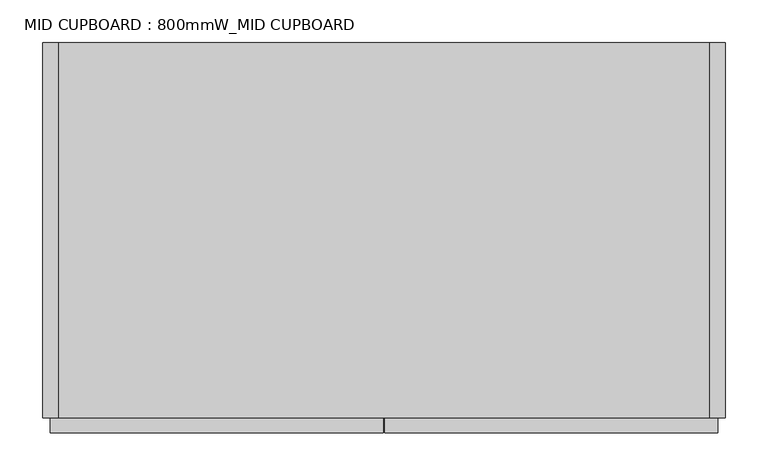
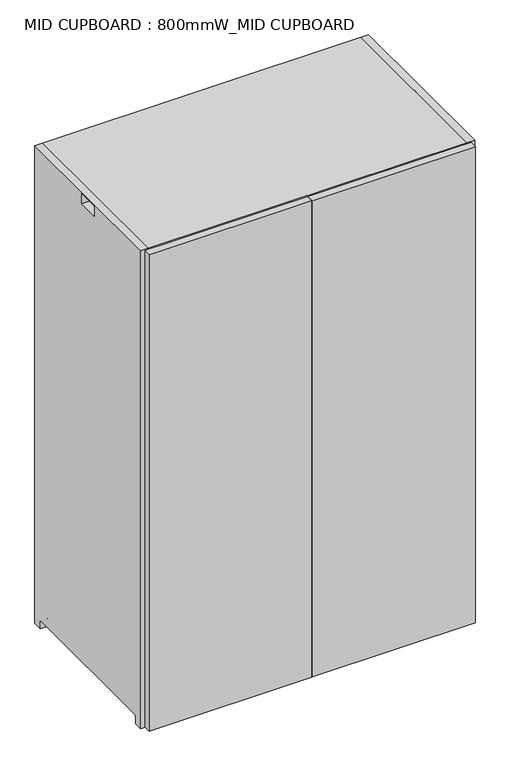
"""IFC4 building model written with IfcOpenShell, lengths in millimetres: furniture geometry, MID CUPBOARD : 800mmW_MID CUPBOARD."""

from ifc_helpers import new_model, si_unit, point, frame, frame_2d, origin, place, context, project, spatial, polyline, circle_curve, trimmed, segment, composite_curve, outline, extrude, source, transform, mapped, element, save
from ifc_brep_helpers import plane_surface, revolved_surface, advanced_brep


def mid_cupboard_800mmw_mid_cupboard_a6dcce3a(model_context):
    return source(origin(), model_context, "Body", "SolidModel", [
        extrude(outline(composite_curve([segment(polyline([(-220.0, 1210.0), (220.0, 1210.0), (220.0, 0.0), (198.0, 0.0), (198.0, 17.0)]), True, "CONTINUOUS"), segment(trimmed(circle_curve(frame_2d((194.0, 17.0)), 4.0), [point((198.0, 17.0))], [point((194.0, 21.0))], True, "CARTESIAN"), True, "CONTINUOUS"), segment(polyline([(194.0, 21.0), (-194.0, 21.0)]), True, "CONTINUOUS"), segment(trimmed(circle_curve(frame_2d((-194.0, 17.0)), 4.0), [point((-194.0, 21.0))], [point((-198.0, 17.0))], True, "CARTESIAN"), True, "CONTINUOUS"), segment(polyline([(-198.0, 17.0), (-198.0, 0.0), (-220.0, 0.0), (-220.0, 1210.0)]), True, "CONTINUOUS")], self_intersect=False), holes=[polyline([(-26.0, 1205.0), (-26.0, 1180.0), (26.0, 1180.0), (26.0, 1205.0), (-26.0, 1205.0)])]), frame((-400.0, 0.0, 0.0), z_axis=(1.0, 0.0, 0.0), x_axis=(0.0, 1.0, 0.0)), (0.0, 0.0, 1.0), 18.0),
        advanced_brep(
        [(382.0, 220.0, 18.0), (-382.0, 220.0, 18.0), (-382.0, 197.8729833, 18.0), (-376.1019215, 197.8729833, 18.0), (-376.1019215, -197.8729833, 18.0), (-382.0, -197.8729833, 18.0), (-382.0, -220.0, 18.0), (382.0, -220.0, 18.0), (382.0, 220.0, 0.0), (382.0, -220.0, 0.0), (-382.0, -220.0, 0.0), (-382.0, -198.0, 0.0), (-376.1019215, -198.0, 0.0), (-376.1019215, 198.0, 0.0), (-382.0, 198.0, 0.0), (-382.0, 220.0, 0.0), (-382.0, 198.0, 17.0), (-382.0, -198.0, 17.0), (-376.1019215, 198.0, 17.0), (-376.1019215, -198.0, 17.0)],
        [
            (0, 1),
            (1, 2),
            (2, 3),
            (3, 4),
            (4, 5),
            (5, 6),
            (6, 7),
            (7, 0),
            (8, 9),
            (9, 10),
            (10, 11),
            (11, 12),
            (12, 13),
            (13, 14),
            (14, 15),
            (15, 8),
            (0, 8),
            (15, 1),
            (14, 16),
            (16, 2, circle_curve(frame((-382.0, 194.0, 17.0), z_axis=(1.0, 0.0, 0.0), x_axis=(0.0, 1.0, 0.0)), 4.0)),
            (10, 6),
            (5, 17, circle_curve(frame((-382.0, -194.0, 17.0), z_axis=(1.0, 0.0, 0.0), x_axis=(0.0, 1.0, 0.0)), 4.0)),
            (17, 11),
            (9, 7),
            (18, 13),
            (12, 19),
            (19, 4, circle_curve(frame((-376.1019215, -194.0, 17.0), z_axis=(-1.0, 0.0, 0.0), x_axis=(0.0, 1.0, 0.0)), 4.0)),
            (3, 18, circle_curve(frame((-376.1019215, 194.0, 17.0), z_axis=(-1.0, 0.0, 0.0), x_axis=(0.0, 1.0, 0.0)), 4.0)),
            (19, 17),
            (18, 16),
        ],
        [
            plane_surface(frame((-382.0, 220.0, 18.0), z_axis=(0.0, 0.0, 1.0), x_axis=(-1.0, 0.0, 0.0))),
            plane_surface(frame((-382.0, 220.0, 0.0), z_axis=(0.0, 0.0, -1.0), x_axis=(1.0, 0.0, 0.0))),
            plane_surface(frame((382.0, 220.0, 18.0), z_axis=(0.0, 1.0, 0.0), x_axis=(0.0, 0.0, -1.0))),
            plane_surface(frame((-382.0, 220.0, 18.0), z_axis=(-1.0, 0.0, 0.0), x_axis=(0.0, 0.0, -1.0))),
            plane_surface(frame((-382.0, -220.0, 18.0), z_axis=(0.0, -1.0, 0.0), x_axis=(0.0, 0.0, -1.0))),
            plane_surface(frame((382.0, -220.0, 18.0), z_axis=(1.0, 0.0, 0.0), x_axis=(0.0, 0.0, -1.0))),
            plane_surface(frame((-376.1019215, -190.0, 17.0), z_axis=(-1.0, 0.0, 0.0), x_axis=(0.0, 0.0, 1.0))),
            revolved_surface(polyline([(-376.1019215, -190.0, 17.0), (-382.0, -190.0, 17.0)]), (-406.0458228, -194.0, 17.0), (1.0, 0.0, 0.0)),
            plane_surface(frame((-376.1019215, -198.0, 17.0), z_axis=(0.0, 1.0, 0.0), x_axis=(-1.0, 0.0, 0.0))),
            plane_surface(frame((-376.1019215, 198.0, 0.0), z_axis=(0.0, -1.0, 0.0), x_axis=(-1.0, 0.0, 0.0))),
            revolved_surface(polyline([(-376.1019215, 198.0, 17.0), (-382.0, 198.0, 17.0)]), (-406.0458228, 194.0, 17.0), (1.0, 0.0, 0.0)),
        ],
        [
            (0, [[1, 2, 3, 4, 5, 6, 7, 8]]),
            (1, [[9, 10, 11, 12, 13, 14, 15, 16]]),
            (2, [[-1, 17, -16, 18]]),
            (3, [[-18, -15, 19, 20, -2]]),
            (3, [[21, -6, 22, 23, -11]]),
            (4, [[-7, -21, -10, 24]]),
            (5, [[-8, -24, -9, -17]]),
            (6, [[25, -13, 26, 27, -4, 28]]),
            (7, [[-27, 29, -22, -5]]),
            (8, [[-26, -12, -23, -29]]),
            (9, [[-25, 30, -19, -14]]),
            (10, [[-28, -3, -20, -30]]),
        ],
    ),
        extrude(outline(composite_curve([segment(polyline([(-220.0, 1210.0), (220.0, 1210.0), (220.0, 0.0), (198.0, 0.0), (198.0, 17.0)]), True, "CONTINUOUS"), segment(trimmed(circle_curve(frame_2d((194.0, 17.0)), 4.0), [point((198.0, 17.0))], [point((194.0, 21.0))], True, "CARTESIAN"), True, "CONTINUOUS"), segment(polyline([(194.0, 21.0), (-194.0, 21.0)]), True, "CONTINUOUS"), segment(trimmed(circle_curve(frame_2d((-194.0, 17.0)), 4.0), [point((-194.0, 21.0))], [point((-198.0, 17.0))], True, "CARTESIAN"), True, "CONTINUOUS"), segment(polyline([(-198.0, 17.0), (-198.0, 0.0), (-220.0, 0.0), (-220.0, 1210.0)]), True, "CONTINUOUS")], self_intersect=False), holes=[polyline([(-26.0, 1205.0), (-26.0, 1180.0), (26.0, 1180.0), (26.0, 1205.0), (-26.0, 1205.0)])]), frame((382.0, 0.0, 0.0), z_axis=(1.0, 0.0, 0.0), x_axis=(0.0, 1.0, 0.0)), (0.0, 0.0, 1.0), 18.0),
        extrude(outline(polyline([(382.0, 220.0), (382.0, 202.0), (-382.0, 202.0), (-382.0, 220.0), (382.0, 220.0)])), frame((0.0, 0.0, 18.0), z_axis=(0.0, 0.0, 1.0), x_axis=(1.0, 0.0, 0.0)), (0.0, 0.0, 1.0), 1174.0),
        extrude(outline(polyline([(382.0, 202.0), (382.0, -220.0), (-382.0, -220.0), (-382.0, 202.0), (382.0, 202.0)])), frame((0.0, 0.0, 398.5), z_axis=(0.0, 0.0, 1.0), x_axis=(1.0, 0.0, 0.0)), (0.0, 0.0, 1.0), 18.0),
        extrude(outline(polyline([(382.0, 202.0), (382.0, -220.0), (-382.0, -220.0), (-382.0, 202.0), (382.0, 202.0)])), frame((0.0, 0.0, 793.5), z_axis=(0.0, 0.0, 1.0), x_axis=(1.0, 0.0, 0.0)), (0.0, 0.0, 1.0), 18.0),
        extrude(outline(polyline([(382.0, 220.0), (382.0, -220.0), (-382.0, -220.0), (-382.0, 220.0), (382.0, 220.0)])), frame((0.0, 0.0, 1192.0), z_axis=(0.0, 0.0, 1.0), x_axis=(1.0, 0.0, 0.0)), (0.0, 0.0, 1.0), 18.0),
        extrude(outline(polyline([(9.0, 202.0), (9.0, -220.0), (-9.0, -220.0), (-9.0, 202.0), (9.0, 202.0)])), frame((0.0, 0.0, 18.0), z_axis=(0.0, 0.0, 1.0), x_axis=(1.0, 0.0, 0.0)), (0.0, 0.0, 1.0), 1174.0),
        extrude(outline(polyline([(391.0, -220.0), (391.0, -238.0), (1.0, -238.0), (1.0, -220.0), (391.0, -220.0)])), frame((0.0, 0.0, 2.0), z_axis=(0.0, 0.0, 1.0), x_axis=(1.0, 0.0, 0.0)), (0.0, 0.0, 1.0), 1206.0),
        extrude(outline(polyline([(-391.0, -220.0), (-1.0, -220.0), (-1.0, -238.0), (-391.0, -238.0), (-391.0, -220.0)])), frame((0.0, 0.0, 2.0), z_axis=(0.0, 0.0, 1.0), x_axis=(1.0, 0.0, 0.0)), (0.0, 0.0, 1.0), 1206.0),
    ])


if __name__ == "__main__":
    model = new_model("IFC4")
    model_context = context("Model", 3, world=origin())
    ifc_project = project(units=[si_unit("LENGTHUNIT", "METRE", prefix="MILLI")], contexts=[model_context])
    site = spatial("IfcSite", under=ifc_project)
    building = spatial("IfcBuilding", under=site)
    placement = place(None, origin())
    mid_cupboard_800mmw_mid_cupboard_shape = mid_cupboard_800mmw_mid_cupboard_a6dcce3a(model_context)
    element("IfcFurniture", 1, ObjectType="MID CUPBOARD : 800mmW_MID CUPBOARD", at=placement, inside=building, context=model_context, shape_type="MappedRepresentation", body=[
        mapped(mid_cupboard_800mmw_mid_cupboard_shape, transform((0.0, 0.0, 0.0), x_axis=(1.0, 0.0, 0.0), y_axis=(0.0, 1.0, 0.0), z_axis=(0.0, 0.0, 1.0))),
    ])
    save(model, "model.ifc")
